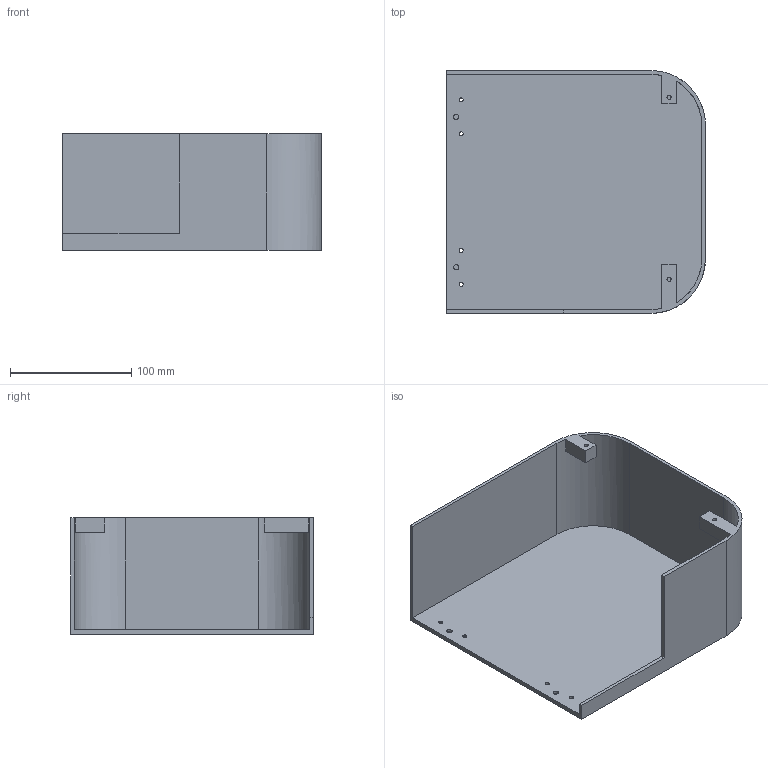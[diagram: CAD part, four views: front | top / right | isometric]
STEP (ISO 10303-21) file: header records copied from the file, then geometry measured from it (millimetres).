
FILE_DESCRIPTION(('Base splice and hand/dowel native rebuild. P1 head/arm retained as imported base geometry.'),'2;1');
FILE_NAME('PILL_BASE_TRAY_3.step','',(''),(''),'SolidCraft','SolidCraft','');
FILE_SCHEMA(('AP242_MANAGED_MODEL_BASED_3D_ENGINEERING_MIM_LF { 1 0 10303 442 1 1 4 }'));
Length unit declared in the file: millimetre
Products named in the file (1): PILL_BASE_TRAY_3
Bounding box: 213.33 x 200 x 96 mm (x, y, z)
Volume: 311783.9 mm3; surface area: 181975.7 mm2
Topology: 1 solids, 1 shells, 54 faces, 166 edges, 120 vertices
Faces by surface type: plane 42, cylinder 12
Full cylindrical faces by diameter (mm): 3.4 x6, 4.4 x2
Entity records: 1693 total; most frequent: CARTESIAN_POINT 433, ORIENTED_EDGE 332, EDGE_CURVE 166, DIRECTION 139, VERTEX_POINT 120, LINE 110, EDGE_LOOP 72, FACE_BOUND 72
